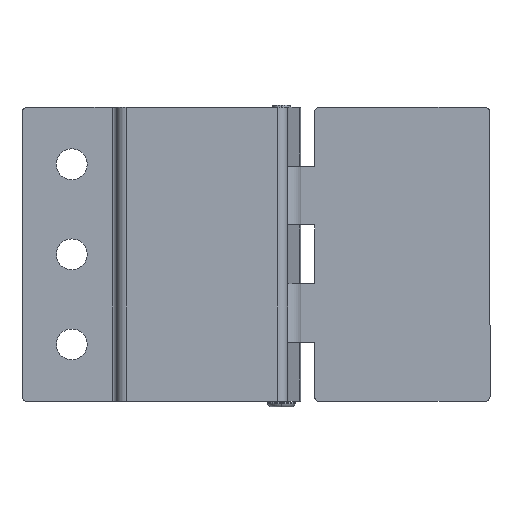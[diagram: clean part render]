
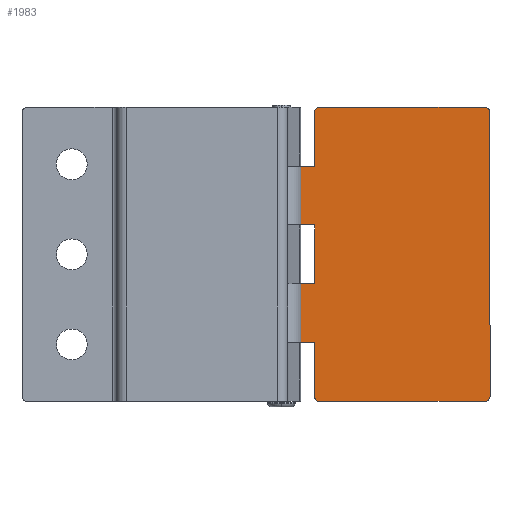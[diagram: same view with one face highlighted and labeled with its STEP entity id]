
A CAD part, left-side view. The second image highlights one B-rep face of the part: STEP entity #1983.
In plain terms, the highlighted planar face has unit normal (-1, 0, 0) as drawn and (0, 1, 0) by its records, which use the part's own axes.
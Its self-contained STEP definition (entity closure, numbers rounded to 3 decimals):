
#12 = VERTEX_POINT ( 'NONE', #2483 ) ;
#80 = ORIENTED_EDGE ( 'NONE', *, *, #152, .T. ) ;
#103 = EDGE_CURVE ( 'NONE', #798, #830, #2090, .T. ) ;
#112 = DIRECTION ( 'NONE',  ( 0., 0., -1. ) ) ;
#118 = CIRCLE ( 'NONE', #522, 1. ) ;
#152 = EDGE_CURVE ( 'NONE', #2434, #926, #118, .T. ) ;
#180 = CARTESIAN_POINT ( 'NONE',  ( -17.421, 4.199, -18.6 ) ) ;
#192 = DIRECTION ( 'NONE',  ( 0., -1., 0. ) ) ;
#206 = ORIENTED_EDGE ( 'NONE', *, *, #398, .T. ) ;
#211 = VECTOR ( 'NONE', #784, 1000. ) ;
#214 = CARTESIAN_POINT ( 'NONE',  ( -17.421, 4.199, 18.6 ) ) ;
#230 = CARTESIAN_POINT ( 'NONE',  ( -17.421, 4.199, 31. ) ) ;
#235 = VECTOR ( 'NONE', #2629, 1000. ) ;
#256 = ORIENTED_EDGE ( 'NONE', *, *, #490, .T. ) ;
#262 = VERTEX_POINT ( 'NONE', #2564 ) ;
#277 = VECTOR ( 'NONE', #112, 1000. ) ;
#354 = CARTESIAN_POINT ( 'NONE',  ( 18.579, 4.199, 31. ) ) ;
#377 = LINE ( 'NONE', #1045, #1870 ) ;
#388 = CARTESIAN_POINT ( 'NONE',  ( -16.421, 4.199, 30. ) ) ;
#398 = EDGE_CURVE ( 'NONE', #3081, #262, #2925, .T. ) ;
#407 = VERTEX_POINT ( 'NONE', #2492 ) ;
#419 = CIRCLE ( 'NONE', #2717, 1. ) ;
#432 = LINE ( 'NONE', #1879, #1905 ) ;
#433 = DIRECTION ( 'NONE',  ( 0., 0., -1. ) ) ;
#442 = CARTESIAN_POINT ( 'NONE',  ( -17.421, 4.199, -30. ) ) ;
#490 = EDGE_CURVE ( 'NONE', #926, #690, #2495, .T. ) ;
#506 = ORIENTED_EDGE ( 'NONE', *, *, #2381, .F. ) ;
#522 = AXIS2_PLACEMENT_3D ( 'NONE', #818, #1840, #1406 ) ;
#523 = CARTESIAN_POINT ( 'NONE',  ( 19.579, 4.199, -30. ) ) ;
#534 = EDGE_LOOP ( 'NONE', ( #2857, #80, #256, #2563, #506, #2869, #1762, #1619, #1204, #1812, #206, #1351, #1151, #1332, #2310, #2957 ) ) ;
#581 = VERTEX_POINT ( 'NONE', #354 ) ;
#625 = VECTOR ( 'NONE', #695, 1000. ) ;
#646 = FACE_OUTER_BOUND ( 'NONE', #534, .T. ) ;
#665 = VECTOR ( 'NONE', #1167, 1000. ) ;
#688 = CARTESIAN_POINT ( 'NONE',  ( -17.421, 4.199, 30. ) ) ;
#690 = VERTEX_POINT ( 'NONE', #865 ) ;
#695 = DIRECTION ( 'NONE',  ( -1., 0., 0. ) ) ;
#711 = LINE ( 'NONE', #1437, #235 ) ;
#722 = VECTOR ( 'NONE', #1707, 1000. ) ;
#726 = DIRECTION ( 'NONE',  ( 0., 0., -1. ) ) ;
#754 = CARTESIAN_POINT ( 'NONE',  ( 18.579, 4.199, -31. ) ) ;
#781 = EDGE_CURVE ( 'NONE', #2601, #12, #432, .T. ) ;
#784 = DIRECTION ( 'NONE',  ( 0., 0., -1. ) ) ;
#798 = VERTEX_POINT ( 'NONE', #688 ) ;
#805 = LINE ( 'NONE', #2701, #1912 ) ;
#818 = CARTESIAN_POINT ( 'NONE',  ( 18.579, 4.199, -30. ) ) ;
#824 = DIRECTION ( 'NONE',  ( 0., 0., -1. ) ) ;
#830 = VERTEX_POINT ( 'NONE', #2837 ) ;
#865 = CARTESIAN_POINT ( 'NONE',  ( -16.421, 4.199, -31. ) ) ;
#866 = CARTESIAN_POINT ( 'NONE',  ( 18.579, 4.199, 30. ) ) ;
#898 = DIRECTION ( 'NONE',  ( 0., 0., -1. ) ) ;
#913 = CARTESIAN_POINT ( 'NONE',  ( -16.421, 4.199, -30. ) ) ;
#914 = CIRCLE ( 'NONE', #1164, 1. ) ;
#921 = CARTESIAN_POINT ( 'NONE',  ( 26.579, 4.199, -6.2 ) ) ;
#926 = VERTEX_POINT ( 'NONE', #754 ) ;
#1045 = CARTESIAN_POINT ( 'NONE',  ( 26.579, 4.199, 31. ) ) ;
#1062 = VERTEX_POINT ( 'NONE', #921 ) ;
#1082 = CARTESIAN_POINT ( 'NONE',  ( -17.421, 4.199, 6.2 ) ) ;
#1095 = LINE ( 'NONE', #214, #2908 ) ;
#1102 = EDGE_CURVE ( 'NONE', #12, #3081, #1095, .T. ) ;
#1151 = ORIENTED_EDGE ( 'NONE', *, *, #1878, .T. ) ;
#1164 = AXIS2_PLACEMENT_3D ( 'NONE', #913, #1818, #1413 ) ;
#1167 = DIRECTION ( 'NONE',  ( -1., 0., 0. ) ) ;
#1204 = ORIENTED_EDGE ( 'NONE', *, *, #781, .T. ) ;
#1244 = LINE ( 'NONE', #1254, #2777 ) ;
#1254 = CARTESIAN_POINT ( 'NONE',  ( 19.579, 4.199, 31. ) ) ;
#1317 = AXIS2_PLACEMENT_3D ( 'NONE', #230, #192, #898 ) ;
#1332 = ORIENTED_EDGE ( 'NONE', *, *, #2709, .T. ) ;
#1341 = DIRECTION ( 'NONE',  ( 0., 0., -1. ) ) ;
#1351 = ORIENTED_EDGE ( 'NONE', *, *, #2540, .T. ) ;
#1406 = DIRECTION ( 'NONE',  ( 0., 0., -1. ) ) ;
#1413 = DIRECTION ( 'NONE',  ( 0., 0., -1. ) ) ;
#1437 = CARTESIAN_POINT ( 'NONE',  ( -17.421, 4.199, -6.2 ) ) ;
#1452 = LINE ( 'NONE', #2672, #722 ) ;
#1498 = CARTESIAN_POINT ( 'NONE',  ( 26.579, 4.199, 31. ) ) ;
#1602 = LINE ( 'NONE', #180, #665 ) ;
#1619 = ORIENTED_EDGE ( 'NONE', *, *, #1932, .T. ) ;
#1707 = DIRECTION ( 'NONE',  ( -1., 0., 0. ) ) ;
#1724 = EDGE_CURVE ( 'NONE', #581, #830, #1452, .T. ) ;
#1730 = CARTESIAN_POINT ( 'NONE',  ( 19.579, 4.199, 6.2 ) ) ;
#1754 = DIRECTION ( 'NONE',  ( 0., 0., -1. ) ) ;
#1762 = ORIENTED_EDGE ( 'NONE', *, *, #1724, .F. ) ;
#1780 = CARTESIAN_POINT ( 'NONE',  ( 26.579, 4.199, 18.6 ) ) ;
#1785 = DIRECTION ( 'NONE',  ( 0., 1., 0. ) ) ;
#1811 = DIRECTION ( 'NONE',  ( 1., 0., 0. ) ) ;
#1812 = ORIENTED_EDGE ( 'NONE', *, *, #1102, .T. ) ;
#1818 = DIRECTION ( 'NONE',  ( 0., 1., 0. ) ) ;
#1840 = DIRECTION ( 'NONE',  ( 0., 1., 0. ) ) ;
#1870 = VECTOR ( 'NONE', #824, 1000. ) ;
#1878 = EDGE_CURVE ( 'NONE', #3088, #2634, #805, .T. ) ;
#1879 = CARTESIAN_POINT ( 'NONE',  ( 19.579, 4.199, 31. ) ) ;
#1896 = CARTESIAN_POINT ( 'NONE',  ( 19.579, 4.199, -18.6 ) ) ;
#1900 = EDGE_CURVE ( 'NONE', #690, #2236, #914, .T. ) ;
#1905 = VECTOR ( 'NONE', #726, 1000. ) ;
#1912 = VECTOR ( 'NONE', #1754, 1000. ) ;
#1932 = EDGE_CURVE ( 'NONE', #581, #2601, #419, .T. ) ;
#1983 = ADVANCED_FACE ( 'NONE', ( #646 ), #2589, .F. ) ;
#1991 = CARTESIAN_POINT ( 'NONE',  ( -17.421, 4.199, -31. ) ) ;
#2061 = VERTEX_POINT ( 'NONE', #1896 ) ;
#2090 = CIRCLE ( 'NONE', #2245, 1. ) ;
#2193 = DIRECTION ( 'NONE',  ( 0., 0., -1. ) ) ;
#2206 = CARTESIAN_POINT ( 'NONE',  ( -17.421, 4.199, 31. ) ) ;
#2236 = VERTEX_POINT ( 'NONE', #442 ) ;
#2245 = AXIS2_PLACEMENT_3D ( 'NONE', #388, #1785, #1341 ) ;
#2259 = LINE ( 'NONE', #2206, #277 ) ;
#2310 = ORIENTED_EDGE ( 'NONE', *, *, #2787, .T. ) ;
#2313 = CARTESIAN_POINT ( 'NONE',  ( 19.579, 4.199, 30. ) ) ;
#2361 = VECTOR ( 'NONE', #2754, 1000. ) ;
#2381 = EDGE_CURVE ( 'NONE', #798, #2236, #2259, .T. ) ;
#2434 = VERTEX_POINT ( 'NONE', #523 ) ;
#2443 = EDGE_CURVE ( 'NONE', #2061, #2434, #1244, .T. ) ;
#2483 = CARTESIAN_POINT ( 'NONE',  ( 19.579, 4.199, 18.6 ) ) ;
#2492 = CARTESIAN_POINT ( 'NONE',  ( 26.579, 4.199, -18.6 ) ) ;
#2495 = LINE ( 'NONE', #1991, #2361 ) ;
#2540 = EDGE_CURVE ( 'NONE', #262, #3088, #2988, .T. ) ;
#2563 = ORIENTED_EDGE ( 'NONE', *, *, #1900, .T. ) ;
#2564 = CARTESIAN_POINT ( 'NONE',  ( 26.579, 4.199, 6.2 ) ) ;
#2589 = PLANE ( 'NONE',  #1317 ) ;
#2601 = VERTEX_POINT ( 'NONE', #2313 ) ;
#2629 = DIRECTION ( 'NONE',  ( 1., 0., 0. ) ) ;
#2634 = VERTEX_POINT ( 'NONE', #3017 ) ;
#2672 = CARTESIAN_POINT ( 'NONE',  ( -17.421, 4.199, 31. ) ) ;
#2701 = CARTESIAN_POINT ( 'NONE',  ( 19.579, 4.199, 31. ) ) ;
#2709 = EDGE_CURVE ( 'NONE', #2634, #1062, #711, .T. ) ;
#2717 = AXIS2_PLACEMENT_3D ( 'NONE', #866, #2781, #433 ) ;
#2754 = DIRECTION ( 'NONE',  ( -1., 0., 0. ) ) ;
#2777 = VECTOR ( 'NONE', #2193, 1000. ) ;
#2781 = DIRECTION ( 'NONE',  ( 0., 1., 0. ) ) ;
#2787 = EDGE_CURVE ( 'NONE', #1062, #407, #377, .T. ) ;
#2837 = CARTESIAN_POINT ( 'NONE',  ( -16.421, 4.199, 31. ) ) ;
#2857 = ORIENTED_EDGE ( 'NONE', *, *, #2443, .T. ) ;
#2869 = ORIENTED_EDGE ( 'NONE', *, *, #103, .T. ) ;
#2901 = EDGE_CURVE ( 'NONE', #407, #2061, #1602, .T. ) ;
#2908 = VECTOR ( 'NONE', #1811, 1000. ) ;
#2925 = LINE ( 'NONE', #1498, #211 ) ;
#2957 = ORIENTED_EDGE ( 'NONE', *, *, #2901, .T. ) ;
#2988 = LINE ( 'NONE', #1082, #625 ) ;
#3017 = CARTESIAN_POINT ( 'NONE',  ( 19.579, 4.199, -6.2 ) ) ;
#3081 = VERTEX_POINT ( 'NONE', #1780 ) ;
#3088 = VERTEX_POINT ( 'NONE', #1730 ) ;
